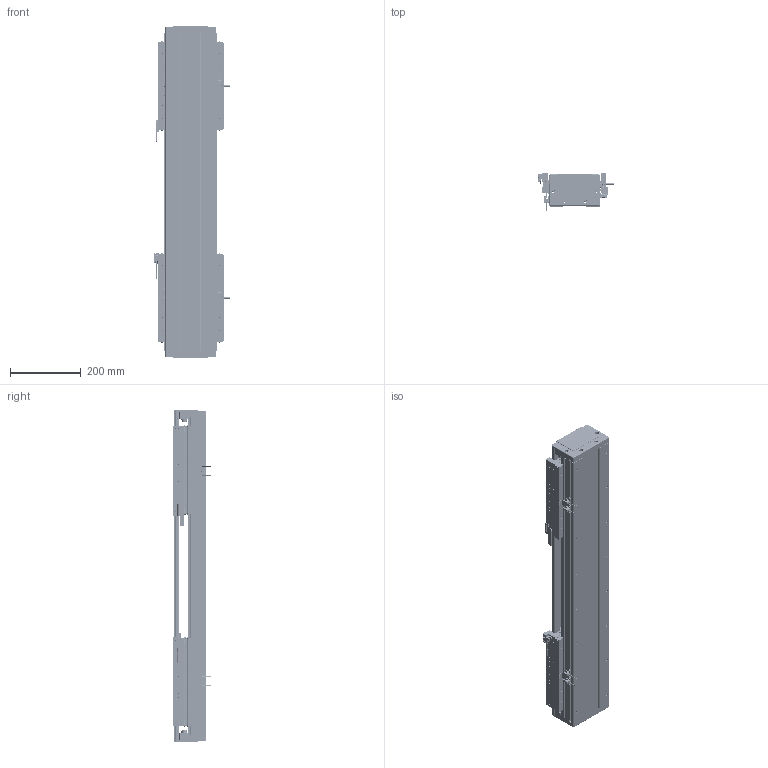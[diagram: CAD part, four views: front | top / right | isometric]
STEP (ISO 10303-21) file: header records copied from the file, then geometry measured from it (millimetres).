
FILE_DESCRIPTION (( 'STEP AP203' ), '1' );
FILE_NAME ('DA-C145-2-C3-T320-C010-0.2 眻盄萇儂.STEP', '2025-08-13T10:15:08', ( '' ), ( '' ), 'SwSTEP 2.0', 'SolidWorks 2019', '' );
FILE_SCHEMA (( 'CONFIG_CONTROL_DESIGN' ));
Length unit declared in the file: millimetre
Products named in the file (35): DKW-GYP-ZJ-00 笢潔嫖萇覜茼え; CU145-W-00 珨极趙賑雄怢啣-1; CU145-W 幗紩賑怢; DA-C145-2-C3-T320-C010-0.2 眻盄萇儂; 复件 内六角平端紧定螺钉 GB.T77-2000 M5×10^CU145-W 滚珠滑台; 葩璃 鞠褒情蹟譫 M3^DA-C145-2-C3-T-C010-0.2; 葩璃 XD-U-02L 棠掑喜^DA-C145-2-C3-T-C010-0.2; 葩璃 DA95-GT-T-00^IU-CU145-L 菁釱絳寢; 复件 DA95-MFP-01 密封片^CU145-W 滚珠滑台; 葩璃 DMA-010-0.2 黍杅芛^DA-C145-2-C3-T-C010-0.2; 66245-CU145-HT-W-00 賑雄怢啣(3D芞祧)(00); DKW168-HXJ-ZJ-00 笢潔滅袉砎蝶; 葩璃 DA145-C3-DP-A-00 菜えA^CU145-W 幗紩賑怢; TAY01-M8; 复件 DA95-DB-00  挡板^CU145-W 滚珠滑台; CU145-W 幗紩賑怢-1; 复件 DA95-HK-GT-00 滑块钢轨^CU145-W-00 一体化滑动台板; 复件 DA145-C3-DK-00 挡块^CU145-W 滚珠滑台; DKW-KGZ-ZJ-00 中间光电开关支架; IU-CU145-L-00 菁釱(L900); 葩璃 PM-T45^DA-C145-2-C3-T-C010-0.2; 葩璃 CKM03-W060-C1C2-TP-0.2^DA-C145-2-C3-T-C010-0.2; 复件 DA145-GYP-00 光电感应片^DA-C145-2-C3-T-C010-0.2; 葩璃 DA145-T-003-00 裔啣^DA-C145-2-C3-T-C010-0.2; 葩璃 CKMA01-W060-TRL^DA-C145-2-C3-T-C010-0.2; 复件 半圆头内六角螺钉 M3×6^CU145-W 滚珠滑台; 复件 纯铜油杯 6x6mm^CU145-W 滚珠滑台; IU-CU145-L 菁釱絳寢; 复件 DA145-C3-YB-B-00 压板B^CU145-W 滚珠滑台; CU145-W-00 珨极趙賑雄怢啣; 葩璃 DA95-HXJ-00 遣喳砎蝶^DA-C145-2-C3-T-C010-0.2; 复件 DA145-C3-YB-A-00 压板A^CU145-W 滚珠滑台; 葩璃 DA145-C3-DP-B-00 菜えB^CU145-W 幗紩賑怢; 葩璃 PM-Y65^DA-C145-2-C3-T-C010-0.2; 葩璃 DA145-DG-H-N-00 傷裔^DA-C145-2-C3-T-C010-0.2
Assembly tree (175 placements, depth 4):
  DA-C145-2-C3-T320-C010-0.2 眻盄萇儂
    IU-CU145-L 菁釱絳寢
      IU-CU145-L-00 菁釱(L900)
      葩璃 DA95-GT-T-00^IU-CU145-L 菁釱絳寢  x4
    CU145-W 幗紩賑怢
      CU145-W-00 珨极趙賑雄怢啣
        66245-CU145-HT-W-00 賑雄怢啣(3D芞祧)(00)
        复件 DA95-HK-GT-00 滑块钢轨^CU145-W-00 一体化滑动台板  x8
      复件 DA95-MFP-01 密封片^CU145-W 滚珠滑台  x8
      复件 DA95-DB-00  挡板^CU145-W 滚珠滑台  x8
      复件 内六角平端紧定螺钉 GB.T77-2000 M5×10^CU145-W 滚珠滑台  x4
      复件 纯铜油杯 6x6mm^CU145-W 滚珠滑台  x4
      复件 半圆头内六角螺钉 M3×6^CU145-W 滚珠滑台  x16
      复件 DA145-C3-DK-00 挡块^CU145-W 滚珠滑台  x4
      葩璃 DA145-C3-DP-B-00 菜えB^CU145-W 幗紩賑怢  x2
      复件 DA145-C3-YB-B-00 压板B^CU145-W 滚珠滑台  x2
      葩璃 DA145-C3-DP-A-00 菜えA^CU145-W 幗紩賑怢  x3
      复件 DA145-C3-YB-A-00 压板A^CU145-W 滚珠滑台  x3
      TAY01-M8  x4
    CU145-W 幗紩賑怢-1
      CU145-W-00 珨极趙賑雄怢啣-1
        66245-CU145-HT-W-00 賑雄怢啣(3D芞祧)(00)
        复件 DA95-HK-GT-00 滑块钢轨^CU145-W-00 一体化滑动台板  x8
      复件 DA95-MFP-01 密封片^CU145-W 滚珠滑台  x8
      复件 DA95-DB-00  挡板^CU145-W 滚珠滑台  x8
      复件 内六角平端紧定螺钉 GB.T77-2000 M5×10^CU145-W 滚珠滑台  x4
      复件 纯铜油杯 6x6mm^CU145-W 滚珠滑台  x4
      复件 半圆头内六角螺钉 M3×6^CU145-W 滚珠滑台  x16
      复件 DA145-C3-DK-00 挡块^CU145-W 滚珠滑台  x4
      葩璃 DA145-C3-DP-B-00 菜えB^CU145-W 幗紩賑怢  x2
      复件 DA145-C3-YB-B-00 压板B^CU145-W 滚珠滑台  x2
      葩璃 DA145-C3-DP-A-00 菜えA^CU145-W 幗紩賑怢  x3
      复件 DA145-C3-YB-A-00 压板A^CU145-W 滚珠滑台  x3
      TAY01-M8  x4
    葩璃 CKMA01-W060-TRL^DA-C145-2-C3-T-C010-0.2
    葩璃 PM-T45^DA-C145-2-C3-T-C010-0.2  x4
    葩璃 XD-U-02L 棠掑喜^DA-C145-2-C3-T-C010-0.2
    葩璃 DA145-DG-H-N-00 傷裔^DA-C145-2-C3-T-C010-0.2  x2
    葩璃 DA145-T-003-00 裔啣^DA-C145-2-C3-T-C010-0.2
    葩璃 DA95-HXJ-00 遣喳砎蝶^DA-C145-2-C3-T-C010-0.2  x4
    葩璃 CKM03-W060-C1C2-TP-0.2^DA-C145-2-C3-T-C010-0.2  x2
    葩璃 DMA-010-0.2 黍杅芛^DA-C145-2-C3-T-C010-0.2  x2
    复件 DA145-GYP-00 光电感应片^DA-C145-2-C3-T-C010-0.2  x2
    DKW-GYP-ZJ-00 笢潔嫖萇覜茼え
    DKW-KGZ-ZJ-00 中间光电开关支架
    葩璃 PM-Y65^DA-C145-2-C3-T-C010-0.2
    葩璃 鞠褒情蹟譫 M3^DA-C145-2-C3-T-C010-0.2  x8
    DKW168-HXJ-ZJ-00 笢潔滅袉砎蝶
Bounding box: 213.7 x 108.45 x 940 mm (x, y, z)
Volume: 8355903 mm3; surface area: 2245802.8 mm2
Topology: 171 solids, 235 shells, 6830 faces, 17566 edges, 10743 vertices
Faces by surface type: plane 2928, cylinder 2614, cone 1120, torus 152, sphere 8, bspline 8
Entity records: 101101 total; most frequent: CARTESIAN_POINT 24116, DIRECTION 14613, ORIENTED_EDGE 14296, EDGE_CURVE 7148, AXIS2_PLACEMENT_3D 5289, VERTEX_POINT 4592, LINE 4035, VECTOR 4035
